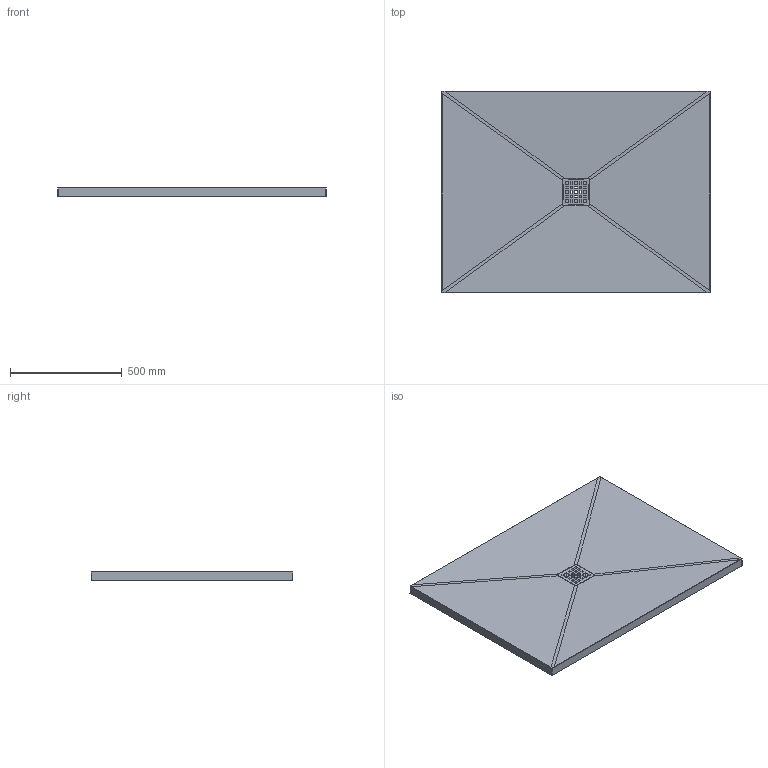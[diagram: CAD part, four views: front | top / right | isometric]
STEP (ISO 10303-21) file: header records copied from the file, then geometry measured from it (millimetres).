
FILE_DESCRIPTION (( 'STEP AP214' ), '1' );
FILE_NAME ('TRENT 120x90.STEP', '2024-05-13T12:00:02', ( '' ), ( '' ), 'SwSTEP 2.0', 'SolidWorks 2021', '' );
FILE_SCHEMA (( 'AUTOMOTIVE_DESIGN' ));
Length unit declared in the file: millimetre
Products named in the file (1): TRENT 120x90
Bounding box: 1200 x 900 x 40.02 mm (x, y, z)
Volume: 15565993.6 mm3; surface area: 2724424.4 mm2
Topology: 3 solids, 3 shells, 833 faces, 1993 edges, 1151 vertices
Faces by surface type: cylinder 365, bspline 291, plane 177
Full cylindrical faces by diameter (mm): 66 x1
Entity records: 38342 total; most frequent: CARTESIAN_POINT 21484, ORIENTED_EDGE 3974, DIRECTION 2508, EDGE_CURVE 1987, VERTEX_POINT 1151, VECTOR 928, LINE 928, EDGE_LOOP 902
